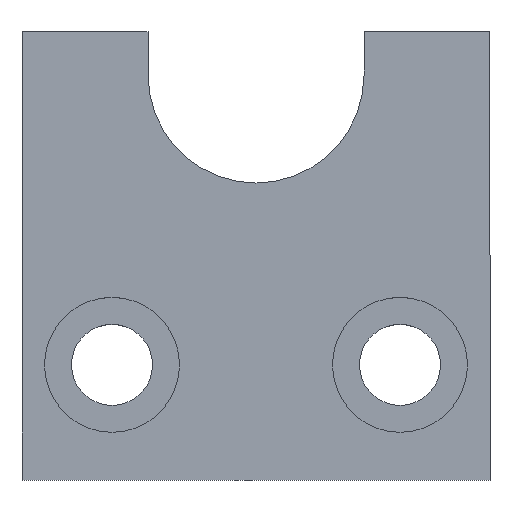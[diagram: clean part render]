
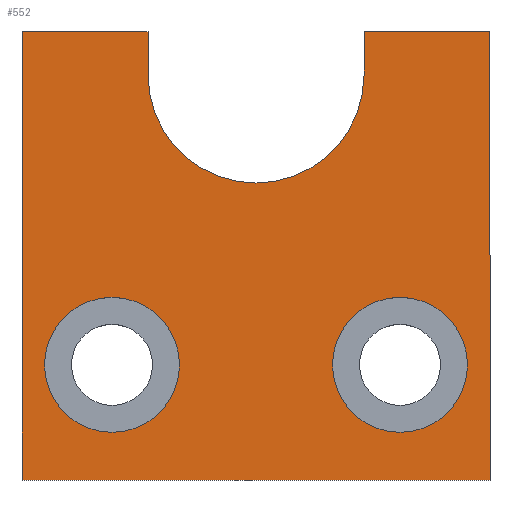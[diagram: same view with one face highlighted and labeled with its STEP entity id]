
A CAD part, top view. The second image highlights one B-rep face of the part: STEP entity #552.
In plain terms, the highlighted planar face has unit normal (0, 0, 1).
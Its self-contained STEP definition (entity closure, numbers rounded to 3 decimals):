
#4 = VECTOR ( 'NONE', #362, 1000. ) ;
#14 = CARTESIAN_POINT ( 'NONE',  ( -26., 0.2, 10.2 ) ) ;
#16 = LINE ( 'NONE', #668, #250 ) ;
#20 = EDGE_LOOP ( 'NONE', ( #202, #327 ) ) ;
#27 = VERTEX_POINT ( 'NONE', #351 ) ;
#28 = CIRCLE ( 'NONE', #563, 7.5 ) ;
#34 = VERTEX_POINT ( 'NONE', #455 ) ;
#37 = VERTEX_POINT ( 'NONE', #170 ) ;
#47 = DIRECTION ( 'NONE',  ( 0., 0., 1. ) ) ;
#66 = CIRCLE ( 'NONE', #526, 7.5 ) ;
#71 = LINE ( 'NONE', #300, #606 ) ;
#72 = DIRECTION ( 'NONE',  ( 0., 0., -1. ) ) ;
#80 = CARTESIAN_POINT ( 'NONE',  ( 12., 45.2, 10.2 ) ) ;
#104 = DIRECTION ( 'NONE',  ( 0., 1., 0. ) ) ;
#106 = ORIENTED_EDGE ( 'NONE', *, *, #407, .F. ) ;
#108 = EDGE_CURVE ( 'NONE', #37, #27, #399, .T. ) ;
#120 = DIRECTION ( 'NONE',  ( 0., -1., 0. ) ) ;
#131 = CARTESIAN_POINT ( 'NONE',  ( -12., 50., 10.2 ) ) ;
#132 = CARTESIAN_POINT ( 'NONE',  ( -26., 50., 10.2 ) ) ;
#134 = EDGE_CURVE ( 'NONE', #479, #34, #66, .T. ) ;
#135 = LINE ( 'NONE', #14, #514 ) ;
#143 = DIRECTION ( 'NONE',  ( 0., 1., 0. ) ) ;
#157 = EDGE_CURVE ( 'NONE', #316, #509, #530, .T. ) ;
#158 = CARTESIAN_POINT ( 'NONE',  ( -23.5, 13., 10.2 ) ) ;
#169 = CARTESIAN_POINT ( 'NONE',  ( -12., 45.2, 10.2 ) ) ;
#170 = CARTESIAN_POINT ( 'NONE',  ( 12., 50., 10.2 ) ) ;
#173 = EDGE_CURVE ( 'NONE', #34, #479, #28, .T. ) ;
#178 = VECTOR ( 'NONE', #120, 1000. ) ;
#194 = VERTEX_POINT ( 'NONE', #302 ) ;
#195 = EDGE_CURVE ( 'NONE', #194, #316, #135, .T. ) ;
#202 = ORIENTED_EDGE ( 'NONE', *, *, #134, .F. ) ;
#221 = CARTESIAN_POINT ( 'NONE',  ( -16., 13., 10.2 ) ) ;
#227 = VERTEX_POINT ( 'NONE', #158 ) ;
#242 = CARTESIAN_POINT ( 'NONE',  ( -26., 50., 10.2 ) ) ;
#249 = DIRECTION ( 'NONE',  ( -1., 0., 0. ) ) ;
#250 = VECTOR ( 'NONE', #732, 1000. ) ;
#256 = ORIENTED_EDGE ( 'NONE', *, *, #586, .F. ) ;
#281 = VECTOR ( 'NONE', #754, 1000. ) ;
#287 = DIRECTION ( 'NONE',  ( 0., 0., 1. ) ) ;
#292 = CIRCLE ( 'NONE', #747, 12. ) ;
#298 = CARTESIAN_POINT ( 'NONE',  ( 16., 13., 10.2 ) ) ;
#300 = CARTESIAN_POINT ( 'NONE',  ( 26., 50., 10.2 ) ) ;
#301 = DIRECTION ( 'NONE',  ( 0., 1., 0. ) ) ;
#302 = CARTESIAN_POINT ( 'NONE',  ( 26., 0.2, 10.2 ) ) ;
#312 = DIRECTION ( 'NONE',  ( 0., 1., 0. ) ) ;
#316 = VERTEX_POINT ( 'NONE', #686 ) ;
#321 = AXIS2_PLACEMENT_3D ( 'NONE', #221, #47, #104 ) ;
#327 = ORIENTED_EDGE ( 'NONE', *, *, #173, .F. ) ;
#331 = VECTOR ( 'NONE', #356, 1000. ) ;
#333 = CARTESIAN_POINT ( 'NONE',  ( -8.5, 13., 10.2 ) ) ;
#335 = DIRECTION ( 'NONE',  ( 0., 0., 1. ) ) ;
#351 = CARTESIAN_POINT ( 'NONE',  ( 26., 50., 10.2 ) ) ;
#356 = DIRECTION ( 'NONE',  ( 0., 1., 0. ) ) ;
#358 = DIRECTION ( 'NONE',  ( 0., 0., 1. ) ) ;
#360 = DIRECTION ( 'NONE',  ( 0., 0., 1. ) ) ;
#362 = DIRECTION ( 'NONE',  ( 0., 1., 0. ) ) ;
#364 = FACE_BOUND ( 'NONE', #20, .T. ) ;
#369 = EDGE_CURVE ( 'NONE', #227, #612, #629, .T. ) ;
#371 = ORIENTED_EDGE ( 'NONE', *, *, #504, .F. ) ;
#373 = ORIENTED_EDGE ( 'NONE', *, *, #369, .F. ) ;
#389 = EDGE_LOOP ( 'NONE', ( #721, #738, #740, #371, #106, #750, #731, #419 ) ) ;
#394 = DIRECTION ( 'NONE',  ( 1., 0., 0. ) ) ;
#399 = LINE ( 'NONE', #518, #281 ) ;
#407 = EDGE_CURVE ( 'NONE', #410, #566, #292, .T. ) ;
#410 = VERTEX_POINT ( 'NONE', #169 ) ;
#414 = CIRCLE ( 'NONE', #321, 7.5 ) ;
#419 = ORIENTED_EDGE ( 'NONE', *, *, #157, .F. ) ;
#455 = CARTESIAN_POINT ( 'NONE',  ( 8.5, 13., 10.2 ) ) ;
#469 = FACE_BOUND ( 'NONE', #525, .T. ) ;
#479 = VERTEX_POINT ( 'NONE', #670 ) ;
#504 = EDGE_CURVE ( 'NONE', #566, #37, #660, .T. ) ;
#509 = VERTEX_POINT ( 'NONE', #132 ) ;
#514 = VECTOR ( 'NONE', #249, 1000. ) ;
#518 = CARTESIAN_POINT ( 'NONE',  ( -26.2, 50., 10.2 ) ) ;
#522 = LINE ( 'NONE', #651, #178 ) ;
#525 = EDGE_LOOP ( 'NONE', ( #256, #373 ) ) ;
#526 = AXIS2_PLACEMENT_3D ( 'NONE', #298, #360, #312 ) ;
#530 = LINE ( 'NONE', #242, #4 ) ;
#531 = DIRECTION ( 'NONE',  ( 0., -1., 0. ) ) ;
#546 = CARTESIAN_POINT ( 'NONE',  ( 16., 13., 10.2 ) ) ;
#552 = ADVANCED_FACE ( 'NONE', ( #364, #469, #716 ), #607, .F. ) ;
#555 = AXIS2_PLACEMENT_3D ( 'NONE', #601, #72, #301 ) ;
#563 = AXIS2_PLACEMENT_3D ( 'NONE', #546, #358, #143 ) ;
#566 = VERTEX_POINT ( 'NONE', #751 ) ;
#580 = DIRECTION ( 'NONE',  ( 0., 1., 0. ) ) ;
#586 = EDGE_CURVE ( 'NONE', #612, #227, #414, .T. ) ;
#601 = CARTESIAN_POINT ( 'NONE',  ( -26.2, 50., 10.2 ) ) ;
#606 = VECTOR ( 'NONE', #531, 1000. ) ;
#607 = PLANE ( 'NONE',  #555 ) ;
#612 = VERTEX_POINT ( 'NONE', #333 ) ;
#618 = AXIS2_PLACEMENT_3D ( 'NONE', #714, #335, #580 ) ;
#629 = CIRCLE ( 'NONE', #618, 7.5 ) ;
#649 = VERTEX_POINT ( 'NONE', #131 ) ;
#651 = CARTESIAN_POINT ( 'NONE',  ( -12., 50., 10.2 ) ) ;
#660 = LINE ( 'NONE', #80, #331 ) ;
#664 = EDGE_CURVE ( 'NONE', #649, #410, #522, .T. ) ;
#668 = CARTESIAN_POINT ( 'NONE',  ( -26.2, 50., 10.2 ) ) ;
#670 = CARTESIAN_POINT ( 'NONE',  ( 23.5, 13., 10.2 ) ) ;
#686 = CARTESIAN_POINT ( 'NONE',  ( -26., 0.2, 10.2 ) ) ;
#692 = EDGE_CURVE ( 'NONE', #27, #194, #71, .T. ) ;
#709 = CARTESIAN_POINT ( 'NONE',  ( 0., 45.2, 10.2 ) ) ;
#714 = CARTESIAN_POINT ( 'NONE',  ( -16., 13., 10.2 ) ) ;
#716 = FACE_OUTER_BOUND ( 'NONE', #389, .T. ) ;
#721 = ORIENTED_EDGE ( 'NONE', *, *, #195, .F. ) ;
#731 = ORIENTED_EDGE ( 'NONE', *, *, #741, .F. ) ;
#732 = DIRECTION ( 'NONE',  ( 1., 0., 0. ) ) ;
#738 = ORIENTED_EDGE ( 'NONE', *, *, #692, .F. ) ;
#740 = ORIENTED_EDGE ( 'NONE', *, *, #108, .F. ) ;
#741 = EDGE_CURVE ( 'NONE', #509, #649, #16, .T. ) ;
#747 = AXIS2_PLACEMENT_3D ( 'NONE', #709, #287, #394 ) ;
#750 = ORIENTED_EDGE ( 'NONE', *, *, #664, .F. ) ;
#751 = CARTESIAN_POINT ( 'NONE',  ( 12., 45.2, 10.2 ) ) ;
#754 = DIRECTION ( 'NONE',  ( 1., 0., 0. ) ) ;
